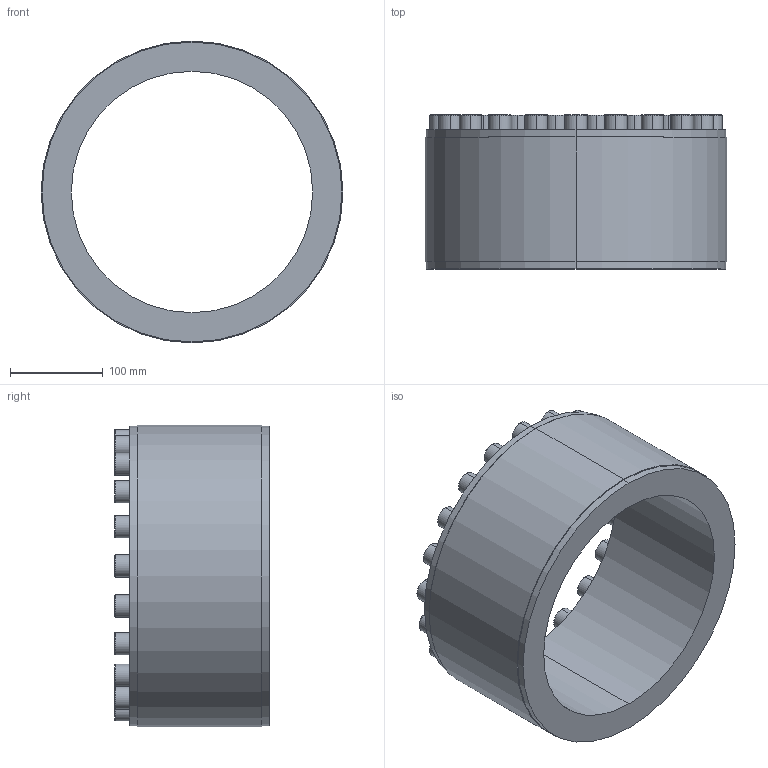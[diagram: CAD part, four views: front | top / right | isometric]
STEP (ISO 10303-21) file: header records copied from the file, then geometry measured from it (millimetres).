
FILE_DESCRIPTION (( 'STEP AP203' ), '1' );
FILE_NAME ('PL-D1 260-325.STEP', '2021-10-23T00:23:33', ( '' ), ( '' ), 'SwSTEP 2.0', 'SolidWorks 2018', '' );
FILE_SCHEMA (( 'CONFIG_CONTROL_DESIGN' ));
Length unit declared in the file: millimetre
Products named in the file (1): PL-D1 260-325
Bounding box: 325 x 166 x 325 mm (x, y, z)
Volume: 4586830.9 mm3; surface area: 368443 mm2
Topology: 1 solids, 1 shells, 264 faces, 612 edges, 394 vertices
Faces by surface type: plane 172, cylinder 50, torus 42
Entity records: 7545 total; most frequent: DIRECTION 1326, CARTESIAN_POINT 1271, ORIENTED_EDGE 1224, EDGE_CURVE 612, AXIS2_PLACEMENT_3D 449, LINE 428, VECTOR 428, VERTEX_POINT 394
